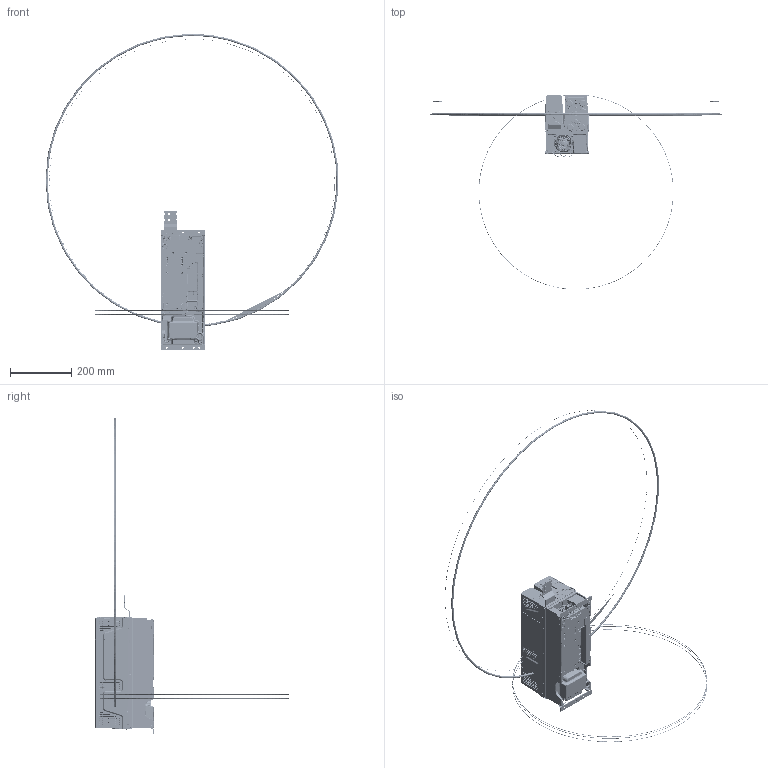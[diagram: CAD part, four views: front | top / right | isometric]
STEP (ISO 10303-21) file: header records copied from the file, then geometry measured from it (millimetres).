
FILE_DESCRIPTION((''),'2;1');
FILE_NAME('OUTER_SHRINKWRAP_SW0003','2014-02-20T',('jackne01'),(''),'PRO/ENGINEER BY PARAMETRIC TECHNOLOGY CORPORATION, 2011490','PRO/ENGINEER BY PARAMETRIC TECHNOLOGY CORPORATION, 2011490','');
FILE_SCHEMA(('CONFIG_CONTROL_DESIGN'));
Products named in the file (1): OUTER_SHRINKWRAP_SW0003
Bounding box: 954.17 x 634.78 x 1030.54 mm (x, y, z)
Surface area: 399635.3 mm2 (no closed solid volume)
Topology: 0 solids, 0 shells, 9716 faces, 75462 edges, 75035 vertices
Faces by surface type: bspline 9196, torus 456, sphere 64
Entity records: 1311635 total; most frequent: CARTESIAN_POINT 602988, DIRECTION 108727, TRIMMED_CURVE 99981, VECTOR 92275, LINE 92275, DEFINITIONAL_REPRESENTATION 76541, PCURVE 76541, COMPOSITE_CURVE_SEGMENT 76541
